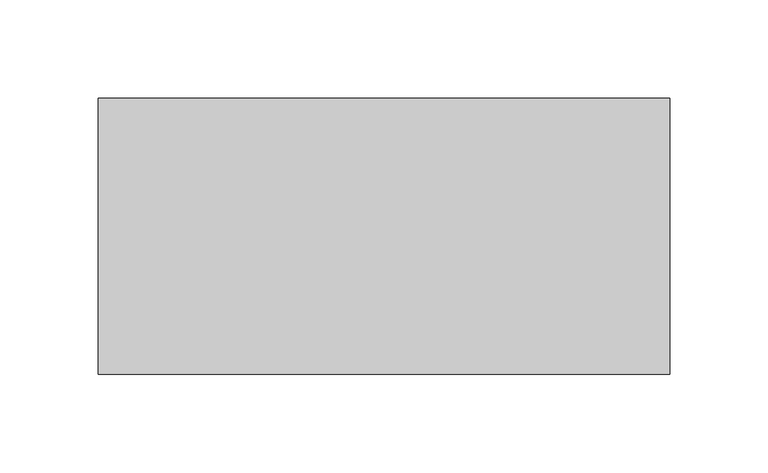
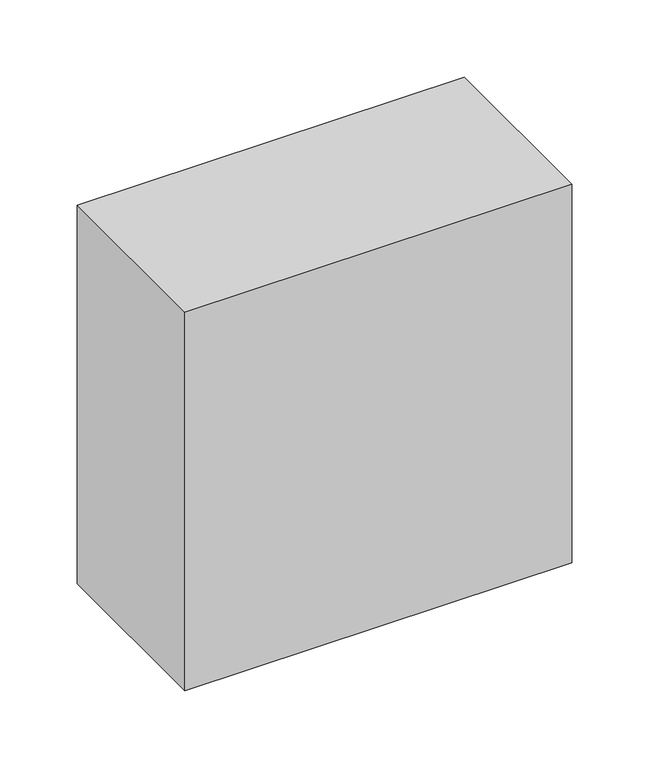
"""IFC4 building model written with IfcOpenShell, lengths in millimetres: proxy geometry."""

from ifc_helpers import new_model, si_unit, frame, origin, place, context, project, spatial, polyline, outline, extrude, source, transform, mapped, element, save


def structural_framing_8cd2586b(model_context):
    return source(origin(), model_context, "Body", "SweptSolid", [
        extrude(outline(polyline([(-145.05, -70.0), (-145.05, 70.0), (145.05, 70.0), (145.05, -70.0), (-145.05, -70.0)])), frame((0.0, 0.0, -300.0), z_axis=(0.0, 0.0, 1.0), x_axis=(1.0, 0.0, 0.0)), (0.0, 0.0, 1.0), 300.0),
    ])


if __name__ == "__main__":
    model = new_model("IFC4")
    model_context = context("Model", 3, world=origin())
    ifc_project = project(units=[si_unit("LENGTHUNIT", "METRE", prefix="MILLI")], contexts=[model_context])
    site = spatial("IfcSite", under=ifc_project)
    building = spatial("IfcBuilding", under=site)
    placement = place(None, origin())
    structural_framing_shape = structural_framing_8cd2586b(model_context)
    element("IfcBuildingElementProxy", 1, Name="Structural Framing", at=placement, inside=building, context=model_context, shape_type="MappedRepresentation", body=[
        mapped(structural_framing_shape, transform((0.0, 0.0, 0.0), x_axis=(1.0, 0.0, 0.0), y_axis=(0.0, 1.0, 0.0), z_axis=(0.0, 0.0, 1.0))),
    ])
    save(model, "model.ifc")
